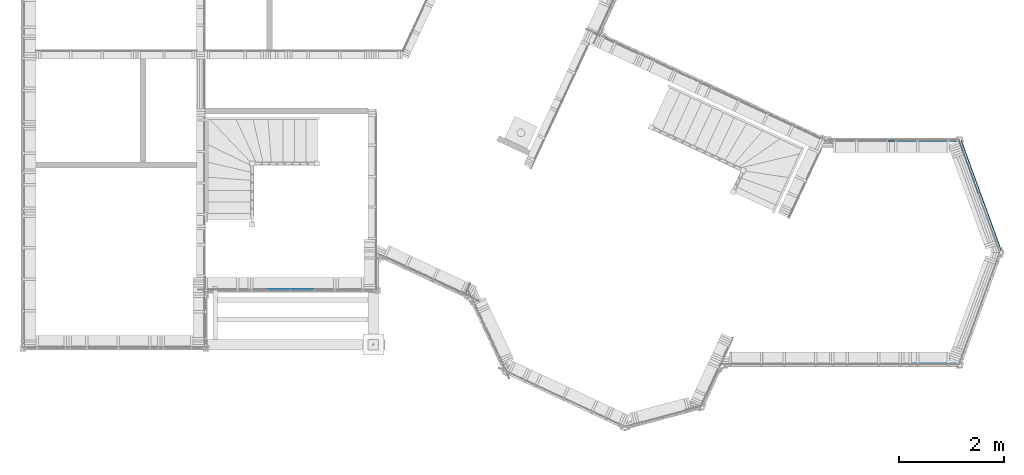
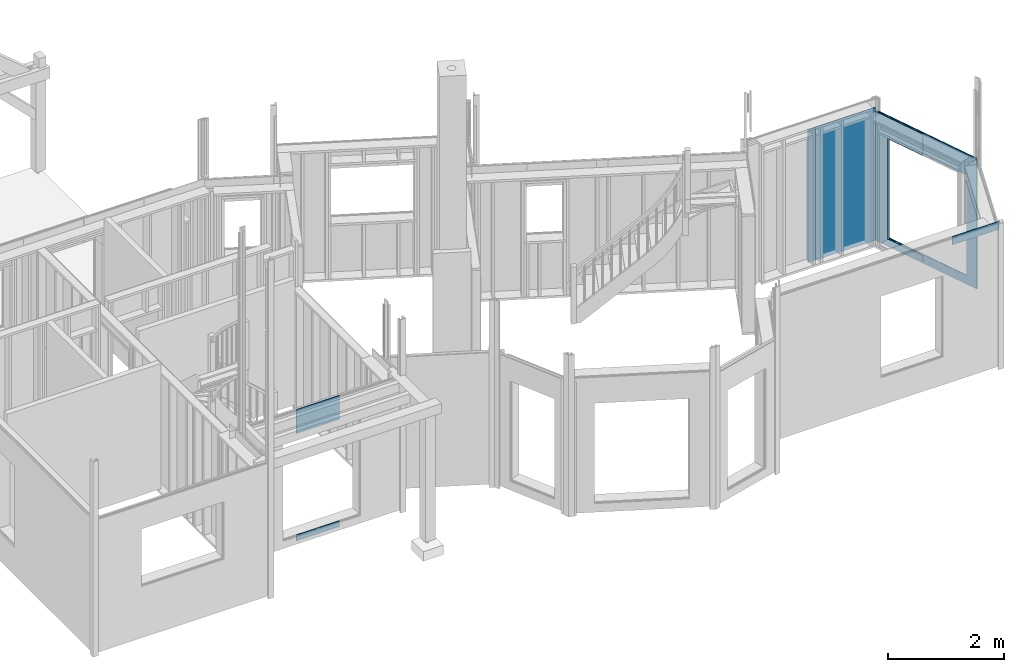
# One storey, part 27 of 34: 7 plates.
"""IFC2X3 building model written with IfcOpenShell, lengths in metres."""

from ifc_helpers import new_model, si_unit, direction, frame, origin_with_axes, place, context, subcontext, project, spatial, faceted_brep, material, element, save


model = new_model("IFC2X3")

# Units and contexts
model_context = context("Model", 3, precision=1e-06, world=origin_with_axes(), true_north=direction((0.0, 1.0, 0.0)))
body_context = subcontext(model_context, "Body", "Model", "MODEL_VIEW")
ifc_project = project(units=[si_unit("LENGTHUNIT", "METRE"), si_unit("AREAUNIT", "SQUARE_METRE"), si_unit("VOLUMEUNIT", "CUBIC_METRE"), si_unit("PLANEANGLEUNIT", "RADIAN")], contexts=[model_context])

# Site, building, storey
site_placement = place(None, origin_with_axes())
site = spatial("IfcSite", under=ifc_project, at=site_placement, CompositionType="ELEMENT")
building_placement = place(site_placement, origin_with_axes())
building = spatial("IfcBuilding", under=site, at=building_placement, Name="Building 1", CompositionType="ELEMENT")
storey_placement = place(building_placement, origin_with_axes())
storey = spatial("IfcBuildingStorey", under=building, at=storey_placement, Name="Rez de chaussée", CompositionType="ELEMENT", Elevation=0.0)

# Plates
ifc_material_1 = material(Name="OSB")
plate_1_placement = place(storey_placement, frame((5.078, 1.1068281, 2.26), z_axis=(0.0, 1.0, 0.0), x_axis=(0.0, 0.0, 1.0)))
element("IfcPlate", 1, at=plate_1_placement, inside=storey, material=ifc_material_1, Name="Panneau de contreventement MFP", context=body_context, shape_type="Brep", body=[
    faceted_brep([(0.0, 0.43, -0.006), (0.503, 0.43, -0.006), (0.503, -0.43, -0.006), (0.0, -0.43, -0.006), (0.503, 0.43, 0.006), (0.503, -0.43, 0.006), (0.0, 0.43, 0.006), (0.0, -0.43, 0.006)], [[[0, 1, 2, 3]], [[1, 4, 5, 2]], [[4, 6, 7, 5]], [[6, 0, 3, 7]], [[0, 6, 4, 1]], [[7, 3, 2, 5]]]),
])
plate_2_placement = place(storey_placement, frame((5.078, 1.1068281, 0.005), z_axis=(0.0, 1.0, 0.0), x_axis=(0.0, 0.0, 1.0)))
element("IfcPlate", 2, at=plate_2_placement, inside=storey, material=ifc_material_1, Name="Panneau de contreventement MFP", context=body_context, shape_type="Brep", body=[
    faceted_brep([(0.124, 0.43, 0.006), (0.0, 0.43, 0.006), (0.0, -0.43, 0.006), (0.124, -0.43, 0.006), (0.0, 0.43, -0.006), (0.0, -0.43, -0.006), (0.124, 0.43, -0.006), (0.124, -0.43, -0.006)], [[[0, 1, 2, 3]], [[1, 4, 5, 2]], [[4, 6, 7, 5]], [[6, 0, 3, 7]], [[0, 6, 4, 1]], [[7, 3, 2, 5]]]),
])
plate_3_placement = place(storey_placement, frame((17.9811462, 3.4346476, 0.005), z_axis=(0.9396926, 0.3420201, 0.0), x_axis=(0.0, 0.0, 1.0)))
element("IfcPlate", 3, at=plate_3_placement, inside=storey, material=ifc_material_1, Name="Panneau de contreventement MFP", context=body_context, shape_type="Brep", body=[
    faceted_brep([(0.0, 0.5269643, 0.006), (0.0, 0.5269643, -0.006), (0.0, -0.5269643, -0.006), (0.0, -0.5269643, 0.006), (0.147, 0.5269643, 0.006), (2.705, -0.5269643, 0.006), (2.705, 0.5269643, 0.006), (2.255, 0.5269643, 0.006), (2.255, -0.2569643, 0.006), (0.147, -0.2569643, 0.006), (2.705, -0.5269643, -0.006), (0.147, 0.5269643, -0.006), (0.147, -0.2569643, -0.006), (2.255, -0.2569643, -0.006), (2.255, 0.5269643, -0.006), (2.705, 0.5269643, -0.006)], [[[0, 1, 2, 3]], [[4, 0, 3, 5, 6, 7, 8, 9]], [[10, 5, 3, 2]], [[11, 4, 9, 12]], [[9, 8, 13, 12]], [[7, 14, 13, 8]], [[15, 6, 5, 10]], [[14, 7, 6, 15]], [[1, 11, 12, 13, 14, 15, 10, 2]], [[4, 11, 1, 0]]]),
])
plate_4_placement = place(storey_placement, frame((17.3340394, -0.31422, 2.809), z_axis=(0.0, -1.0, 0.0), x_axis=(0.0, 0.0, 1.0)))
element("IfcPlate", 4, at=plate_4_placement, inside=storey, material=ifc_material_1, Name="Panneau de contreventement MFP", context=body_context, shape_type="Brep", body=[
    faceted_brep([(0.0, 0.4612362, 0.006), (0.0, 0.4612362, -0.006), (0.0, -0.4612362, -0.006), (0.0, -0.4612362, 0.006), (0.171, 0.4612362, -0.006), (0.171, -0.4612362, -0.006), (0.171, 0.4612362, 0.006), (0.171, -0.4612362, 0.006)], [[[0, 1, 2, 3]], [[2, 1, 4, 5]], [[1, 0, 6, 4]], [[4, 6, 7, 5]], [[0, 3, 7, 6]], [[3, 2, 5, 7]]]),
])
ifc_material_2 = material(Name="Mélèze")
plate_5_placement = place(storey_placement, frame((18.2231089, 2.8911985, -0.03), z_axis=(0.9396926, 0.3420201, 0.0), x_axis=(0.0, 0.0, 1.0)))
element("IfcPlate", 5, at=plate_5_placement, inside=storey, material=ifc_material_2, Name="Bardage", context=body_context, shape_type="Brep", body=[
    faceted_brep([(2.74, 1.1203955, 0.0105), (2.74, 1.1203955, -0.0105), (0.0, 1.1203954, -0.0105), (0.0, 1.1203955, 0.0105), (2.74, -1.1203955, 0.0105), (0.0, -1.1203955, 0.0105), (2.29, -0.8503955, 0.0105), (0.182, -0.8503955, 0.0105), (0.182, 0.8985331, 0.0105), (2.29, 0.8985331, 0.0105), (2.74, -1.1203955, -0.0105), (0.0, -1.1203955, -0.0105), (0.182, -0.8503955, -0.0105), (2.29, -0.8503955, -0.0105), (2.29, 0.8985331, -0.0105), (0.182, 0.8985331, -0.0105)], [[[0, 1, 2, 3]], [[4, 0, 3, 5], [6, 7, 8, 9]], [[10, 4, 5, 11]], [[11, 2, 1, 10], [12, 13, 14, 15]], [[0, 4, 10, 1]], [[15, 14, 9, 8]], [[12, 15, 8, 7]], [[13, 12, 7, 6]], [[14, 13, 6, 9]], [[2, 11, 5, 3]]]),
])
plate_6_placement = place(storey_placement, frame((16.5244769, 3.9337799, 0.005), z_axis=(0.0, 1.0, 0.0), x_axis=(0.0, 0.0, 1.0)))
element("IfcPlate", 6, at=plate_6_placement, inside=storey, material=ifc_material_1, Name="Panneau de contreventement MFP", context=body_context, shape_type="Brep", body=[
    faceted_brep([(2.8, 0.0707988, 0.006), (2.8, -0.0707988, 0.006), (2.8, -0.0707988, -0.006), (2.8, 0.0707988, -0.006), (0.0, -0.0707988, 0.006), (0.0, -0.0707988, -0.006), (0.0, 0.0707988, 0.006), (0.0, 0.0707988, -0.006)], [[[0, 1, 2, 3]], [[2, 1, 4, 5]], [[1, 0, 6, 4]], [[0, 3, 7, 6]], [[6, 7, 5, 4]], [[3, 2, 5, 7]]]),
])
plate_7_placement = place(storey_placement, frame((17.1972756, 3.9337799, 0.005), z_axis=(0.0, 1.0, 0.0), x_axis=(0.0, 0.0, 1.0)))
element("IfcPlate", 7, at=plate_7_placement, inside=storey, material=ifc_material_1, Name="Panneau de contreventement MFP", context=body_context, shape_type="Brep", body=[
    faceted_brep([(2.8, -0.598, 0.006), (2.8, -0.598, -0.006), (2.8, 0.598, -0.006), (2.8, 0.598, 0.006), (0.0, -0.598, 0.006), (0.0, 0.598, 0.006), (0.0, 0.598, -0.006), (0.0, -0.598, -0.006)], [[[0, 1, 2, 3]], [[4, 0, 3, 5]], [[6, 5, 3, 2]], [[7, 4, 5, 6]], [[1, 7, 6, 2]], [[1, 0, 4, 7]]]),
])

save(model, "model.ifc")
